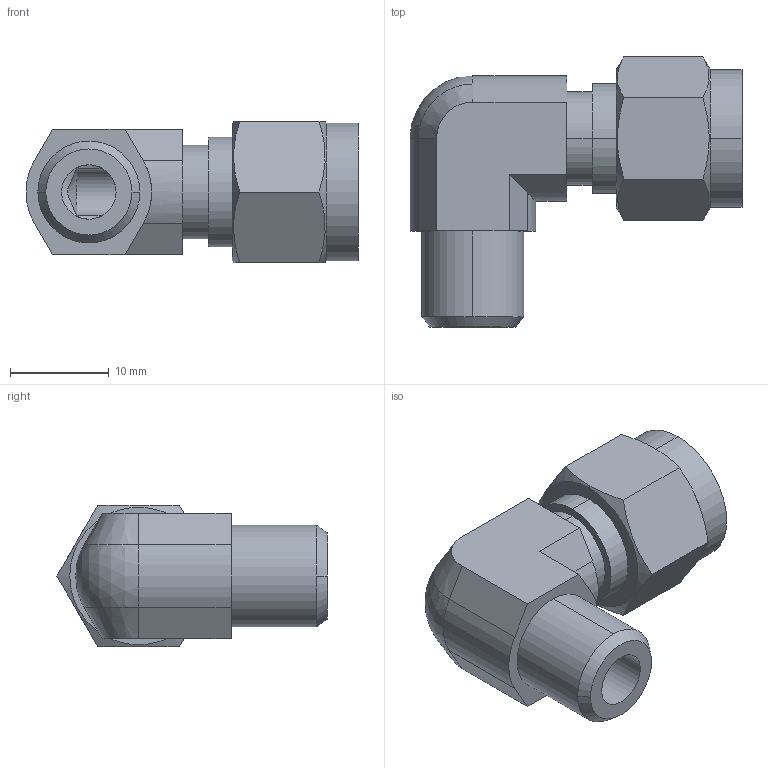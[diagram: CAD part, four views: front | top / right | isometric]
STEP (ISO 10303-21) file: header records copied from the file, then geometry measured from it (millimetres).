
FILE_DESCRIPTION (( 'STEP AP203' ), '1' );
FILE_NAME ('DLB 04-02 SS.STEP', '2009-09-08T06:39:38', ( ' ' ), ( '' ), 'SwSTEP 2.0', 'SolidWorks 2008', '' );
FILE_SCHEMA (( 'CONFIG_CONTROL_DESIGN' ));
Length unit declared in the file: millimetre
Products named in the file (1): DLB 04-02 SS
Bounding box: 33.55 x 27.3 x 14.29 mm (x, y, z)
Volume: 4689.6 mm3; surface area: 3059.6 mm2
Topology: 1 solids, 1 shells, 52 faces, 127 edges, 81 vertices
Faces by surface type: plane 23, cylinder 18, cone 10, sphere 1
Entity records: 1740 total; most frequent: CARTESIAN_POINT 450, DIRECTION 252, ORIENTED_EDGE 250, EDGE_CURVE 125, AXIS2_PLACEMENT_3D 96, VERTEX_POINT 80, VECTOR 60, LINE 60
